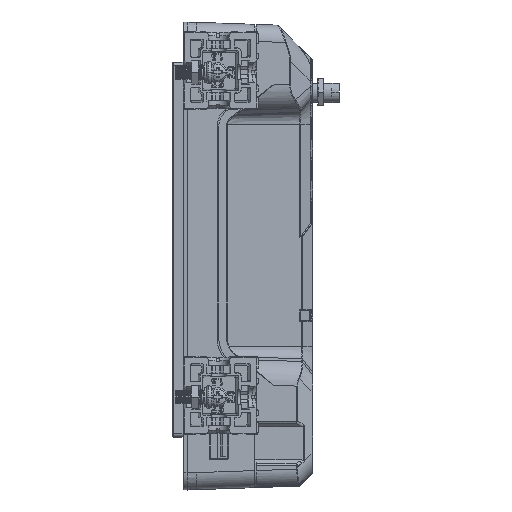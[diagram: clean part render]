
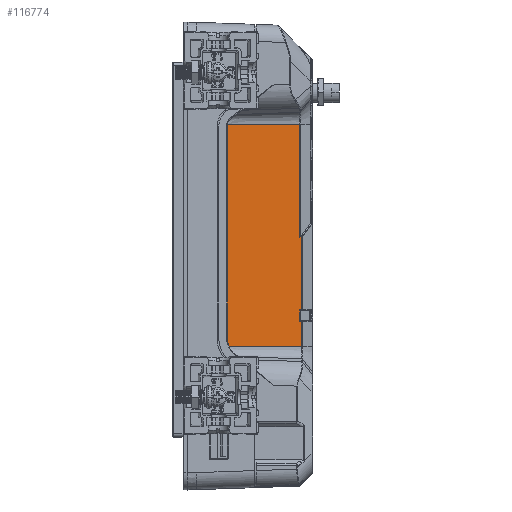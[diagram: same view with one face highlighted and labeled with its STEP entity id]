
A CAD part, left-side view. The second image highlights one B-rep face of the part: STEP entity #116774.
In plain terms, the highlighted planar face has unit normal (-0.999, -0.044, 0).
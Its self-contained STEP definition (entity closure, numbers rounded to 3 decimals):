
#14811=DIRECTION('',(-0.044,0.999,0.));
#14812=VECTOR('',#14811,0.701);
#14813=CARTESIAN_POINT('',(-85.846,-30.858,-19.2));
#14814=LINE('',#14813,#14812);
#14822=DIRECTION('',(0.,0.,1.));
#14823=VECTOR('',#14822,62.126);
#14824=CARTESIAN_POINT('',(-86.8,-9.,-24.084));
#14825=LINE('',#14824,#14823);
#14830=DIRECTION('',(0.,0.,1.));
#14831=VECTOR('',#14830,7.377);
#14832=CARTESIAN_POINT('',(-85.846,-30.858,
-26.577));
#14833=LINE('',#14832,#14831);
#16915=CARTESIAN_POINT('',(-85.872,-30.258,
5.545));
#16917=DIRECTION('',(0.,0.,1.));
#16918=VECTOR('',#16917,33.129);
#16919=CARTESIAN_POINT('',(-85.872,-30.258,
5.545));
#16920=LINE('',#16919,#16918);
#16983=DIRECTION('',(-0.044,0.999,0.));
#16984=VECTOR('',#16983,21.211);
#16985=CARTESIAN_POINT('',(-85.872,-30.258,
38.674));
#16986=LINE('',#16985,#16984);
#17073=CARTESIAN_POINT('',(-86.797,-9.067,
38.674));
#17075=CARTESIAN_POINT('',(-86.797,-9.067,
38.674));
#17076=CARTESIAN_POINT('',(-86.799,-9.022,
38.466));
#17077=CARTESIAN_POINT('',(-86.8,-9.,38.255));
#17078=CARTESIAN_POINT('',(-86.8,-9.,38.042));
#17118=CARTESIAN_POINT('',(-86.8,-9.,-24.084));
#17119=CARTESIAN_POINT('',(-86.8,-9.,-24.954));
#17120=CARTESIAN_POINT('',(-86.792,-9.181,
-25.786));
#17121=CARTESIAN_POINT('',(-86.776,-9.543,
-26.577));
#17143=DIRECTION('',(0.044,-0.999,0.));
#17144=VECTOR('',#17143,21.336);
#17145=CARTESIAN_POINT('',(-86.776,-9.543,
-26.577));
#17146=LINE('',#17145,#17144);
#18292=DIRECTION('',(-0.044,0.998,-0.044));
#18293=VECTOR('',#18292,0.553);
#18294=CARTESIAN_POINT('',(-85.848,-30.81,
5.569));
#18295=LINE('',#18294,#18293);
#18389=DIRECTION('',(0.,0.,1.));
#18390=VECTOR('',#18389,3.4);
#18391=CARTESIAN_POINT('',(-85.876,-30.158,-19.2));
#18392=LINE('',#18391,#18390);
#18416=DIRECTION('',(0.044,-0.999,0.));
#18417=VECTOR('',#18416,0.652);
#18418=CARTESIAN_POINT('',(-85.876,-30.158,-15.8));
#18419=LINE('',#18418,#18417);
#18435=DIRECTION('',(0.,0.,1.));
#18436=VECTOR('',#18435,21.369);
#18437=CARTESIAN_POINT('',(-85.848,-30.81,
-15.8));
#18438=LINE('',#18437,#18436);
#83289=CARTESIAN_POINT('',(-86.8,-9.,-24.084));
#83290=VERTEX_POINT('',#83289);
#83291=VERTEX_POINT('',#17121);
#83295=CARTESIAN_POINT('',(-86.8,-9.,38.042));
#83296=VERTEX_POINT('',#83295);
#83300=VERTEX_POINT('',#17073);
#83445=VERTEX_POINT('',#16915);
#83446=CARTESIAN_POINT('',(-85.872,-30.258,
38.674));
#83447=VERTEX_POINT('',#83446);
#84033=CARTESIAN_POINT('',(-85.846,-30.858,-19.2));
#84034=CARTESIAN_POINT('',(-85.876,-30.158,-19.2));
#84035=VERTEX_POINT('',#84033);
#84036=VERTEX_POINT('',#84034);
#84038=CARTESIAN_POINT('',(-85.846,-30.858,
-26.577));
#84039=VERTEX_POINT('',#84038);
#84040=CARTESIAN_POINT('',(-85.848,-30.81,
5.569));
#84041=VERTEX_POINT('',#84040);
#84042=CARTESIAN_POINT('',(-85.848,-30.81,
-15.8));
#84043=VERTEX_POINT('',#84042);
#84044=CARTESIAN_POINT('',(-85.876,-30.158,-15.8));
#84045=VERTEX_POINT('',#84044);
#116744=CARTESIAN_POINT('',(-86.8,-9.,-32.796));
#116745=DIRECTION('',(0.999,0.044,0.));
#116746=DIRECTION('',(0.,0.,1.));
#116747=AXIS2_PLACEMENT_3D('',#116744,#116745,#116746);
#116748=PLANE('',#116747);
#116750=ORIENTED_EDGE('',*,*,#116749,.F.);
#116752=ORIENTED_EDGE('',*,*,#116751,.F.);
#116754=ORIENTED_EDGE('',*,*,#116753,.F.);
#116756=ORIENTED_EDGE('',*,*,#116755,.T.);
#116758=ORIENTED_EDGE('',*,*,#116757,.F.);
#116760=ORIENTED_EDGE('',*,*,#116759,.F.);
#116762=ORIENTED_EDGE('',*,*,#116761,.F.);
#116764=ORIENTED_EDGE('',*,*,#116763,.F.);
#116766=ORIENTED_EDGE('',*,*,#116765,.F.);
#116768=ORIENTED_EDGE('',*,*,#116767,.F.);
#116770=ORIENTED_EDGE('',*,*,#116769,.F.);
#116771=ORIENTED_EDGE('',*,*,#116732,.F.);
#116772=EDGE_LOOP('',(#116750,#116752,#116754,#116756,#116758,#116760,#116762,
#116764,#116766,#116768,#116770,#116771));
#116773=FACE_OUTER_BOUND('',#116772,.F.);
#116774=ADVANCED_FACE('',(#116773),#116748,.F.);
#17079=B_SPLINE_CURVE_WITH_KNOTS('',3,(#17075,#17076,#17077,#17078),
.UNSPECIFIED.,.F.,.F.,(4,4),(0.,1.),.UNSPECIFIED.);
#17122=B_SPLINE_CURVE_WITH_KNOTS('',3,(#17118,#17119,#17120,#17121),
.UNSPECIFIED.,.F.,.F.,(4,4),(0.,1.),.UNSPECIFIED.);
#116732=EDGE_CURVE('',#84035,#84036,#14814,.T.);
#116749=EDGE_CURVE('',#84039,#84035,#14833,.T.);
#116751=EDGE_CURVE('',#83291,#84039,#17146,.T.);
#116753=EDGE_CURVE('',#83290,#83291,#17122,.T.);
#116755=EDGE_CURVE('',#83290,#83296,#14825,.T.);
#116757=EDGE_CURVE('',#83300,#83296,#17079,.T.);
#116759=EDGE_CURVE('',#83447,#83300,#16986,.T.);
#116761=EDGE_CURVE('',#83445,#83447,#16920,.T.);
#116763=EDGE_CURVE('',#84041,#83445,#18295,.T.);
#116765=EDGE_CURVE('',#84043,#84041,#18438,.T.);
#116767=EDGE_CURVE('',#84045,#84043,#18419,.T.);
#116769=EDGE_CURVE('',#84036,#84045,#18392,.T.);
